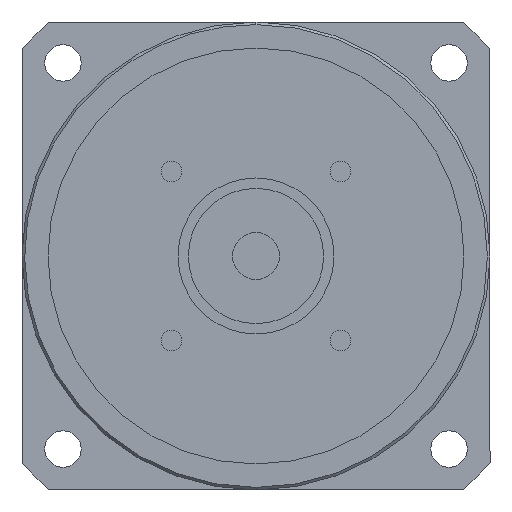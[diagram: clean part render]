
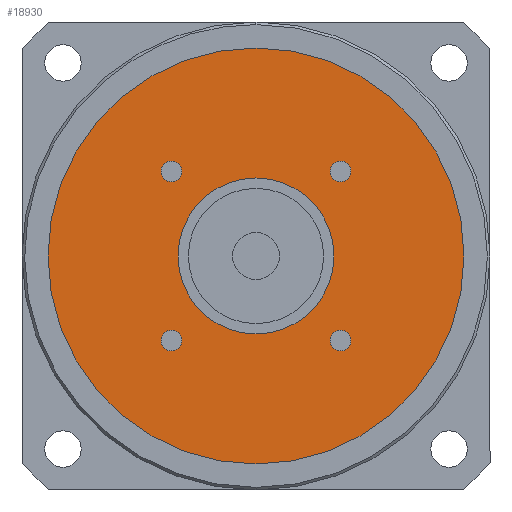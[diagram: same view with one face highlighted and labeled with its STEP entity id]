
A CAD part, left-side view. The second image highlights one B-rep face of the part: STEP entity #18930.
In plain terms, the highlighted planar face has unit normal (-1, 0, 0) as drawn and (0, 0, -1) by its records, which use the part's own axes.
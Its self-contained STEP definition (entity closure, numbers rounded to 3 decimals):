
#15670=CARTESIAN_POINT('',(0.,0.,
-117.));
#15680=DIRECTION('',(0.,0.,1.));
#15690=DIRECTION('',(0.,-1.,0.));
#15700=AXIS2_PLACEMENT_3D('',#15670,#15680,#15690);
#15710=CIRCLE('',#15700,15.);
#15720=CARTESIAN_POINT('',(0.,-15.,-117.));
#15730=VERTEX_POINT('',#15720);
#15740=CARTESIAN_POINT('',(15.,0.,-117.));
#15750=VERTEX_POINT('',#15740);
#15760=EDGE_CURVE('',#15730,#15750,#15710,.T.);
#15990=CARTESIAN_POINT('',(-15.,0.,-117.));
#16000=VERTEX_POINT('',#15990);
#16030=EDGE_CURVE('',#16000,#15730,#15710,.T.);
#16170=CARTESIAN_POINT('',(-14.263,-16.263,-117.));
#16180=VERTEX_POINT('',#16170);
#16360=CARTESIAN_POINT('',(-18.263,-16.263,-117.));
#16370=VERTEX_POINT('',#16360);
#16400=CARTESIAN_POINT('',(-16.263,-16.263,-117.));
#16410=DIRECTION('',(0.,0.,-1.));
#16420=DIRECTION('',(0.,-1.,0.));
#16430=AXIS2_PLACEMENT_3D('',#16400,#16410,#16420);
#16440=CIRCLE('',#16430,2.);
#16450=CARTESIAN_POINT('',(-16.263,-18.263,-117.));
#16460=VERTEX_POINT('',#16450);
#16470=EDGE_CURVE('',#16460,#16370,#16440,.T.);
#16490=EDGE_CURVE('',#16180,#16460,#16440,.T.);
#17860=CARTESIAN_POINT('',(40.,0.,-117.));
#17870=VERTEX_POINT('',#17860);
#17900=CARTESIAN_POINT('',(0.,0.,
-117.));
#17910=DIRECTION('',(0.,0.,1.));
#17920=DIRECTION('',(0.,-1.,0.));
#17930=AXIS2_PLACEMENT_3D('',#17900,#17910,#17920);
#17940=CIRCLE('',#17930,40.);
#17950=CARTESIAN_POINT('',(0.,-40.,-117.));
#17960=VERTEX_POINT('',#17950);
#17970=EDGE_CURVE('',#17960,#17870,#17940,.T.);
#17990=CARTESIAN_POINT('',(-40.,0.,-117.));
#18000=VERTEX_POINT('',#17990);
#18010=EDGE_CURVE('',#18000,#17960,#17940,.T.);
#18130=CARTESIAN_POINT('',(0.,0.,
-117.));
#18140=DIRECTION('',(0.,0.,1.));
#18150=DIRECTION('',(-1.,0.,0.));
#18160=AXIS2_PLACEMENT_3D('',#18130,#18140,#18150);
#18170=PLANE('',#18160);
#18180=CARTESIAN_POINT('',(16.263,-16.263,-117.));
#18190=DIRECTION('',(0.,0.,-1.));
#18200=DIRECTION('',(1.,0.,0.));
#18210=AXIS2_PLACEMENT_3D('',#18180,#18190,#18200);
#18220=CIRCLE('',#18210,2.);
#18230=CARTESIAN_POINT('',(18.263,-16.263,-117.));
#18240=VERTEX_POINT('',#18230);
#18250=CARTESIAN_POINT('',(16.263,-18.263,-117.));
#18260=VERTEX_POINT('',#18250);
#18270=EDGE_CURVE('',#18240,#18260,#18220,.T.);
#18280=ORIENTED_EDGE('',*,*,#18270,.F.);
#18290=CARTESIAN_POINT('',(16.263,-14.263,-117.));
#18300=VERTEX_POINT('',#18290);
#18310=EDGE_CURVE('',#18260,#18300,#18220,.T.);
#18320=ORIENTED_EDGE('',*,*,#18310,.F.);
#18330=EDGE_CURVE('',#18300,#18240,#18220,.T.);
#18340=ORIENTED_EDGE('',*,*,#18330,.F.);
#18350=EDGE_LOOP('',(#18340,#18320,#18280));
#18360=FACE_BOUND('',#18350,.T.);
#18370=CARTESIAN_POINT('',(16.263,16.263,-117.));
#18380=DIRECTION('',(0.,0.,-1.));
#18390=DIRECTION('',(0.,1.,0.));
#18400=AXIS2_PLACEMENT_3D('',#18370,#18380,#18390);
#18410=CIRCLE('',#18400,2.);
#18420=CARTESIAN_POINT('',(16.263,18.263,-117.));
#18430=VERTEX_POINT('',#18420);
#18440=CARTESIAN_POINT('',(18.263,16.263,-117.));
#18450=VERTEX_POINT('',#18440);
#18460=EDGE_CURVE('',#18430,#18450,#18410,.T.);
#18470=ORIENTED_EDGE('',*,*,#18460,.F.);
#18480=CARTESIAN_POINT('',(14.263,16.263,-117.));
#18490=VERTEX_POINT('',#18480);
#18500=EDGE_CURVE('',#18450,#18490,#18410,.T.);
#18510=ORIENTED_EDGE('',*,*,#18500,.F.);
#18520=EDGE_CURVE('',#18490,#18430,#18410,.T.);
#18530=ORIENTED_EDGE('',*,*,#18520,.F.);
#18540=EDGE_LOOP('',(#18530,#18510,#18470));
#18550=FACE_BOUND('',#18540,.T.);
#18560=CARTESIAN_POINT('',(-16.263,16.263,-117.));
#18570=DIRECTION('',(0.,0.,-1.));
#18580=DIRECTION('',(-1.,0.,0.));
#18590=AXIS2_PLACEMENT_3D('',#18560,#18570,#18580);
#18600=CIRCLE('',#18590,2.);
#18610=CARTESIAN_POINT('',(-18.263,16.263,-117.));
#18620=VERTEX_POINT('',#18610);
#18630=CARTESIAN_POINT('',(-16.263,18.263,-117.));
#18640=VERTEX_POINT('',#18630);
#18650=EDGE_CURVE('',#18620,#18640,#18600,.T.);
#18660=ORIENTED_EDGE('',*,*,#18650,.F.);
#18670=CARTESIAN_POINT('',(-16.263,14.263,-117.));
#18680=VERTEX_POINT('',#18670);
#18690=EDGE_CURVE('',#18640,#18680,#18600,.T.);
#18700=ORIENTED_EDGE('',*,*,#18690,.F.);
#18710=EDGE_CURVE('',#18680,#18620,#18600,.T.);
#18720=ORIENTED_EDGE('',*,*,#18710,.F.);
#18730=EDGE_LOOP('',(#18720,#18700,#18660));
#18740=FACE_BOUND('',#18730,.T.);
#18750=ORIENTED_EDGE('',*,*,#16470,.F.);
#18760=EDGE_CURVE('',#16370,#16180,#16440,.T.);
#18770=ORIENTED_EDGE('',*,*,#18760,.F.);
#18780=ORIENTED_EDGE('',*,*,#16490,.F.);
#18790=EDGE_LOOP('',(#18780,#18770,#18750));
#18800=FACE_BOUND('',#18790,.T.);
#18810=ORIENTED_EDGE('',*,*,#17970,.F.);
#18820=EDGE_CURVE('',#17870,#18000,#17940,.T.);
#18830=ORIENTED_EDGE('',*,*,#18820,.F.);
#18840=ORIENTED_EDGE('',*,*,#18010,.F.);
#18850=EDGE_LOOP('',(#18840,#18830,#18810));
#18860=FACE_OUTER_BOUND('',#18850,.T.);
#18870=EDGE_CURVE('',#15750,#16000,#15710,.T.);
#18880=ORIENTED_EDGE('',*,*,#18870,.T.);
#18890=ORIENTED_EDGE('',*,*,#15760,.T.);
#18900=ORIENTED_EDGE('',*,*,#16030,.T.);
#18910=EDGE_LOOP('',(#18900,#18890,#18880));
#18920=FACE_BOUND('',#18910,.T.);
#18930=ADVANCED_FACE('',(#18360,#18550,#18740,#18800,#18860,#18920),
#18170,.F.);
